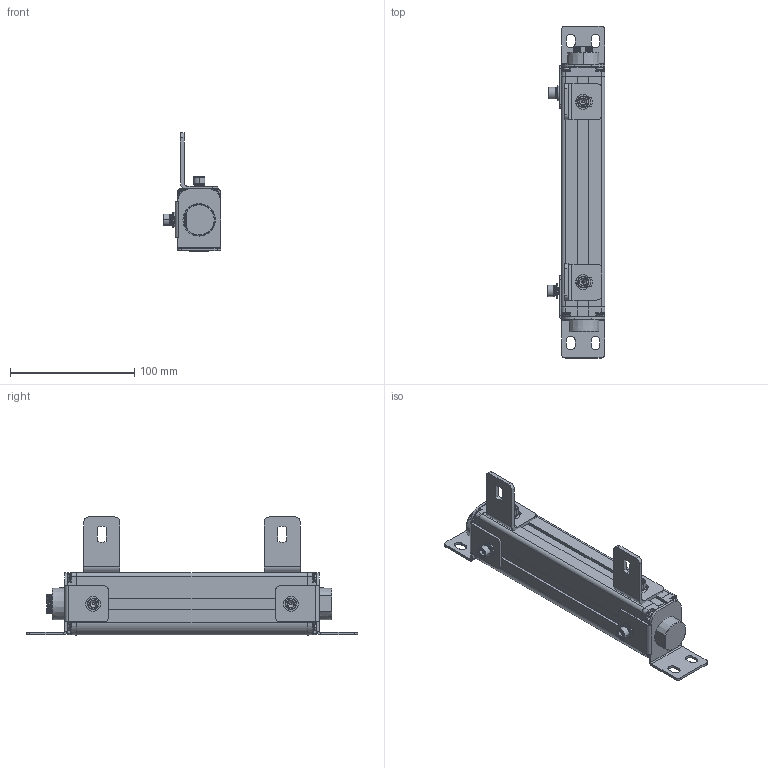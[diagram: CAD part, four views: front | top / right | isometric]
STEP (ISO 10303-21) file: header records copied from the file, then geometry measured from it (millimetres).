
FILE_DESCRIPTION((''),'2;1');
FILE_NAME('ESN--000_ASM','2021-08-10T16:40:16',('18720616900'),(''),'CREO PARAMETRIC BY PTC INC, 2019010','CREO PARAMETRIC BY PTC INC, 2019010','');
FILE_SCHEMA(('CONFIG_CONTROL_DESIGN'));
Length unit declared in the file: millimetre
Products named in the file (22): 00; 000; _0001; 4000; 4--0001; ESN_40001_ASM; L10001; M6-8--0001; M6-1--00; M6-1-00; M6-80001_ASM; L1--0001_ASM; _0002; 0005; ST-3-120001; H1--000; H1--0001_ASM; H1--0003_ASM; ESN--000_ASM
Assembly tree (34 placements, depth 4):
  ESN--000_ASM
    00
    000
    _0001
    000
    ESN_40001_ASM
      4000
      4--0001  x4
    L1--0001_ASM  x2
      L10001
      M6-80001_ASM
        M6-8--0001
        M6-1--00
        M6-1-00
        00
    _0002
    0005
    ST-3-120001  x8
    H1--0001_ASM
      H1--000
      M6-80001_ASM
        M6-8--0001
        M6-1--00
        M6-1-00
        00
    H1--0003_ASM
      H1--000
      M6-80001_ASM
        M6-8--0001
        M6-1--00
        M6-1-00
        00
Bounding box: 46.5 x 267 x 94.95 mm (x, y, z)
Volume: 342532.7 mm3; surface area: 102685.5 mm2
Topology: 39 solids, 39 shells, 1727 faces, 4555 edges, 2925 vertices
Faces by surface type: plane 541, cylinder 404, bspline 362, cone 291, torus 105, sphere 24
Entity records: 45714 total; most frequent: CARTESIAN_POINT 24222, ORIENTED_EDGE 4766, DIRECTION 3842, EDGE_CURVE 2383, VERTEX_POINT 1546, AXIS2_PLACEMENT_3D 1400, VECTOR 1042, LINE 1042
